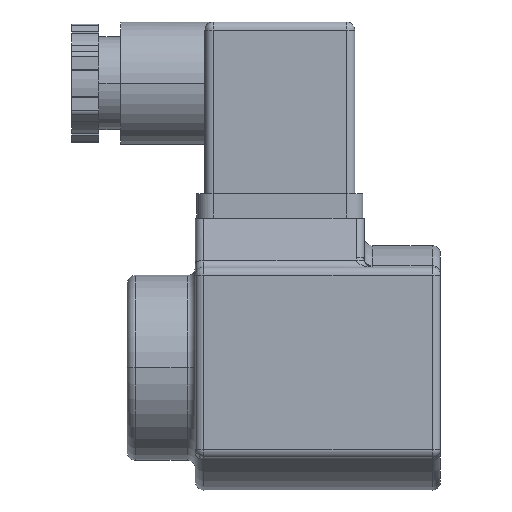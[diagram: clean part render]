
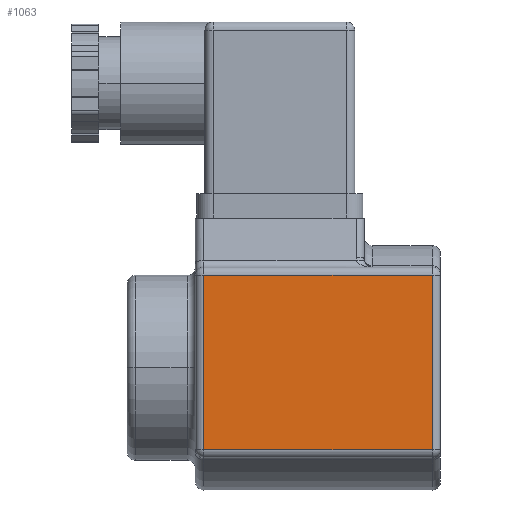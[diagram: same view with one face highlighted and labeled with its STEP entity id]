
A CAD part, left-side view. The second image highlights one B-rep face of the part: STEP entity #1063.
In plain terms, the highlighted planar face has unit normal (-1, 0, 0).
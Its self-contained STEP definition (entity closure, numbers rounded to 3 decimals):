
#1063=ADVANCED_FACE('',(#2477),#2479,.T.);
#2477=FACE_OUTER_BOUND('',#2478,.T.);
#2478=EDGE_LOOP('',(#3400,#3401,#3402,#3403));
#2479=PLANE('',#2480);
#2480=AXIS2_PLACEMENT_3D('',#2481,#2482,#2483);
#2481=CARTESIAN_POINT('',(-23.5,0.,-15.));
#2482=DIRECTION('',(-1.,0.,0.));
#2483=DIRECTION('',(0.,0.,1.));
#3400=ORIENTED_EDGE('',*,*,#3871,.F.);
#3401=ORIENTED_EDGE('',*,*,#3911,.F.);
#3402=ORIENTED_EDGE('',*,*,#3912,.T.);
#3403=ORIENTED_EDGE('',*,*,#3913,.T.);
#3871=EDGE_CURVE('',#4475,#4476,#4477,.T.);
#3911=EDGE_CURVE('',#4535,#4475,#4536,.T.);
#3912=EDGE_CURVE('',#4535,#4537,#4538,.T.);
#3913=EDGE_CURVE('',#4537,#4476,#4539,.T.);
#4475=VERTEX_POINT('',#6026);
#4476=VERTEX_POINT('',#6027);
#4477=LINE('',#6028,#6029);
#4535=VERTEX_POINT('',#6204);
#4536=LINE('',#6205,#6206);
#4537=VERTEX_POINT('',#6208);
#4538=LINE('',#6209,#6210);
#4539=LINE('',#6212,#6213);
#6026=CARTESIAN_POINT('',(-23.5,43.5,-15.));
#6027=CARTESIAN_POINT('',(-23.5,43.5,17.));
#6028=CARTESIAN_POINT('',(-23.5,43.5,-15.));
#6029=VECTOR('',#6030,1.);
#6030=DIRECTION('',(0.,0.,1.));
#6204=CARTESIAN_POINT('',(-23.5,1.5,-15.));
#6205=CARTESIAN_POINT('',(-23.5,1.5,-15.));
#6206=VECTOR('',#6207,1.);
#6207=DIRECTION('',(0.,1.,0.));
#6208=CARTESIAN_POINT('',(-23.5,1.5,17.));
#6209=CARTESIAN_POINT('',(-23.5,1.5,-15.));
#6210=VECTOR('',#6211,1.);
#6211=DIRECTION('',(0.,0.,1.));
#6212=CARTESIAN_POINT('',(-23.5,1.5,17.));
#6213=VECTOR('',#6214,1.);
#6214=DIRECTION('',(0.,1.,0.));
